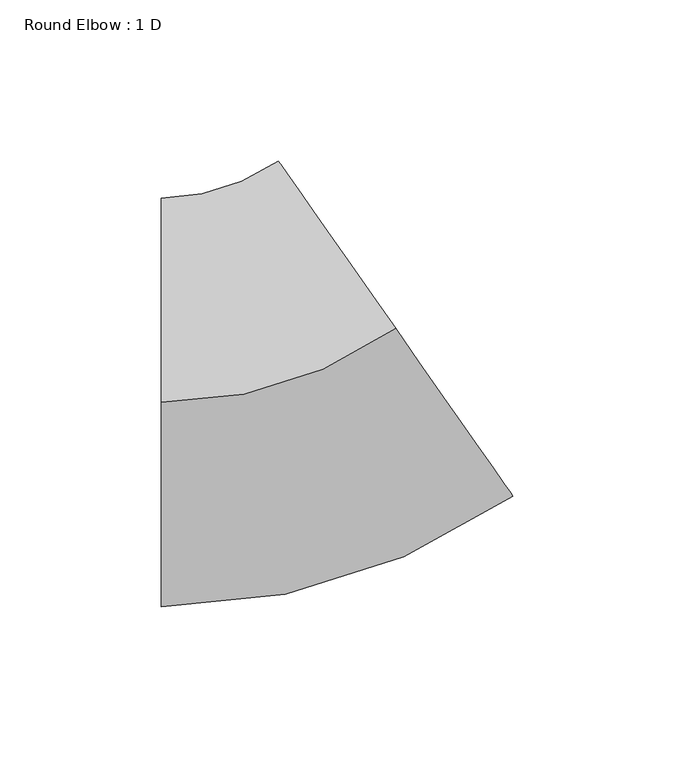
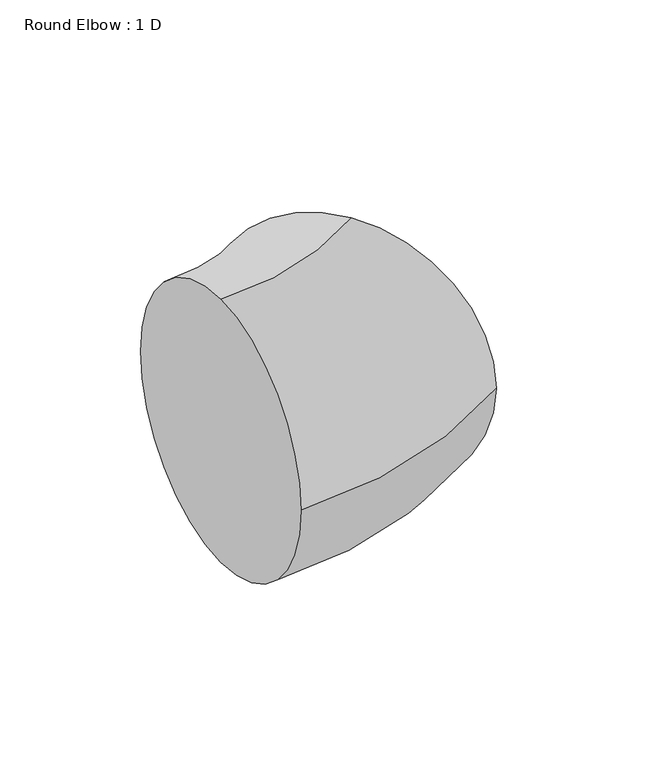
"""IFC4 building model written with IfcOpenShell, lengths in millimetres: duct fitting geometry, Round Elbow : 1 D."""

import ifcopenshell
import ifcopenshell.guid

model = None  # the IFC model being written
_history = None  # IfcOwnerHistory: only IFC2X3 demands one
_inside = {}  # id of a spatial element -> (the spatial element, [elements in it])
_under = {}  # id of a project, library or spatial element -> (it, [spatial elements below it])
_declared = {}  # id of a project -> (the project, [libraries it declares])
_typed = {}  # id of a type object -> (the type object, [elements of that type])
_made_of = {}  # id of a material, layer set ... -> (it, [elements and type objects made of it])


def new_model(schema):
    """Start an empty IFC model of exactly this schema.

    Asked for "IFC4X3", IfcOpenShell would pick the latest addendum, in which some entities
    have other attributes; the version numbers below select the first issue.
    IFC2X3 requires an IfcOwnerHistory on every rooted entity: one is made here for all.
    """
    global model, _history
    if schema == "IFC4X3":
        model = ifcopenshell.file(schema_version=(4, 3, 0, 0))
    else:
        model = ifcopenshell.file(schema=schema)
    _inside.clear()
    _under.clear()
    _declared.clear()
    _typed.clear()
    _made_of.clear()
    _history = None
    if model.schema == "IFC2X3":
        org = make("IfcOrganization", Name="unknown")
        user = make(
            "IfcPersonAndOrganization",
            ThePerson=make("IfcPerson", FamilyName="unknown"),
            TheOrganization=org,
        )
        app = make(
            "IfcApplication",
            ApplicationDeveloper=org,
            Version="unknown",
            ApplicationFullName="unknown",
            ApplicationIdentifier="unknown",
        )
        _history = make(
            "IfcOwnerHistory",
            OwningUser=user,
            OwningApplication=app,
            ChangeAction="ADDED",
            CreationDate=0,
        )
    return model


def make(cls, **values):
    """One entity of the class cls with the attributes given. An attribute that is None is left unset."""
    return model.create_entity(
        cls, **{name: value for name, value in values.items() if value is not None}
    )


def rooted(cls, **values):
    """An entity with a GlobalId (a new one), such as an element, a storey or a relation."""
    return make(cls, GlobalId=ifcopenshell.guid.new(), OwnerHistory=_history, **values)


def si_unit(unit_type, name, prefix=None):
    """IfcSIUnit, for example si_unit("LENGTHUNIT", "METRE", prefix="MILLI")."""
    return make("IfcSIUnit", UnitType=unit_type, Prefix=prefix, Name=name)


def assignment(units):
    """IfcUnitAssignment: the units of a project."""
    return None if units is None else make("IfcUnitAssignment", Units=units)


def point(xyz):
    """IfcCartesianPoint."""
    return None if xyz is None else make("IfcCartesianPoint", Coordinates=xyz)


def direction(xyz):
    """IfcDirection."""
    return None if xyz is None else make("IfcDirection", DirectionRatios=xyz)


def frame(location, z_axis=None, x_axis=None):
    """IfcAxis2Placement3D, a coordinate frame: its origin and axes. An axis left out is left unset."""
    return make(
        "IfcAxis2Placement3D",
        Location=point(location),
        Axis=direction(z_axis),
        RefDirection=direction(x_axis),
    )


def origin():
    """The frame at (0, 0, 0) with its axes left unset."""
    return frame((0.0, 0.0, 0.0))


def place(relative_to, where):
    """IfcLocalPlacement: puts the frame where relative to a parent placement (None: the world)."""
    return make(
        "IfcLocalPlacement", PlacementRelTo=relative_to, RelativePlacement=where
    )


def context(
    kind, dimensions, precision=None, world=None, true_north=None, identifier=None
):
    """IfcGeometricRepresentationContext, for example the 3D "Model" context."""
    return make(
        "IfcGeometricRepresentationContext",
        ContextIdentifier=identifier,
        ContextType=kind,
        CoordinateSpaceDimension=dimensions,
        Precision=precision,
        WorldCoordinateSystem=world,
        TrueNorth=true_north,
    )


def project(units=None, contexts=None):
    """IfcProject with its units and contexts."""
    return rooted(
        "IfcProject",
        Name="project",
        RepresentationContexts=contexts,
        UnitsInContext=assignment(units),
    )


def spatial(cls, under=None, at=None, **own):
    """A site, building, storey or space (cls), placed at a placement, below another one or the project."""
    s = rooted(cls, ObjectPlacement=at, **own)
    if under is not None:
        _under.setdefault(under.id(), (under, []))[1].append(s)
    return s


def circle_curve(where, radius):
    """IfcCircle in the frame where."""
    return make("IfcCircle", Position=where, Radius=radius)


def ellipse_curve(where, semi_axis1, semi_axis2):
    """IfcEllipse in the frame where."""
    return make(
        "IfcEllipse", Position=where, SemiAxis1=semi_axis1, SemiAxis2=semi_axis2
    )


def trimmed(basis, trim1, trim2, sense, master):
    """IfcTrimmedCurve: the piece of a basis curve between two trims."""
    return make(
        "IfcTrimmedCurve",
        BasisCurve=basis,
        Trim1=trim1,
        Trim2=trim2,
        SenseAgreement=sense,
        MasterRepresentation=master,
    )


def shape(context_of_items, identifier, shape_type, items):
    """IfcShapeRepresentation: the items that make up one representation, for example the "Body"."""
    return make(
        "IfcShapeRepresentation",
        ContextOfItems=context_of_items,
        RepresentationIdentifier=identifier,
        RepresentationType=shape_type,
        Items=items,
    )


def source(mapping_origin, context_of_items, identifier, shape_type, items):
    """IfcRepresentationMap: a shape defined once, which mapped items show again and again."""
    return make(
        "IfcRepresentationMap",
        MappingOrigin=mapping_origin,
        MappedRepresentation=shape(context_of_items, identifier, shape_type, items),
    )


def transform(
    local_origin,
    x_axis=None,
    y_axis=None,
    z_axis=None,
    scale=None,
    scale2=None,
    scale3=None,
    uniform=True,
):
    """IfcCartesianTransformationOperator3D, or its non-uniform kind. x_axis, y_axis, z_axis: its Axis1, 2, 3."""
    if uniform:
        return make(
            "IfcCartesianTransformationOperator3D",
            Axis1=direction(x_axis),
            Axis2=direction(y_axis),
            LocalOrigin=point(local_origin),
            Scale=scale,
            Axis3=direction(z_axis),
        )
    return make(
        "IfcCartesianTransformationOperator3DnonUniform",
        Axis1=direction(x_axis),
        Axis2=direction(y_axis),
        LocalOrigin=point(local_origin),
        Scale=scale,
        Axis3=direction(z_axis),
        Scale2=scale2,
        Scale3=scale3,
    )


def mapped(mapping_source, mapping_target):
    """IfcMappedItem: shows the shape of a source again, moved by a transform."""
    return make(
        "IfcMappedItem", MappingSource=mapping_source, MappingTarget=mapping_target
    )


def made_of(thing, what):
    """Note that an element or type object is made of a material, layer set ...; save() writes the relation."""
    if what is not None:
        _made_of.setdefault(what.id(), (what, []))[1].append(thing)
    return thing


def element(
    cls,
    number,
    at=None,
    inside=None,
    cuts=None,
    type_object=None,
    material=None,
    context=None,
    identifier="Body",
    shape_type=None,
    held_by="IfcProductDefinitionShape",
    body=None,
    shapes=None,
    **own,
):
    """One element of the class cls, such as IfcWall. Its Tag is "e" and its number.

    at: its placement. inside: the storey or other place that contains it. cuts: it is an
    opening in that element (IfcRelVoidsElement). A single representation is given by context,
    identifier, shape_type and body (its items); several are given by shapes. held_by: the class
    of the entity that holds the representations. save() writes the other relations.
    """
    e = rooted(cls, Tag="e%d" % number, ObjectPlacement=at, **own)
    if body is not None:
        shapes = [shape(context, identifier, shape_type, body)]
    if shapes is not None:
        e.Representation = make(held_by, Representations=shapes)
    if inside is not None:
        _inside.setdefault(inside.id(), (inside, []))[1].append(e)
    if cuts is not None:
        rooted(
            "IfcRelVoidsElement", RelatingBuildingElement=cuts, RelatedOpeningElement=e
        )
    if type_object is not None:
        _typed.setdefault(type_object.id(), (type_object, []))[1].append(e)
    return made_of(e, material)


def aggregate(whole, parts):
    """IfcRelAggregates: a whole, such as a stair, and the parts it consists of."""
    return rooted("IfcRelAggregates", RelatingObject=whole, RelatedObjects=parts)


def save(model, path):
    """Write the relations noted so far, then the file.

    IfcRelAggregates (storeys below a building ...), IfcRelContainedInSpatialStructure (elements
    in a storey), IfcRelDefinesByType, IfcRelAssociatesMaterial and IfcRelDeclares: one each for
    every whole, place, type object, material and project.
    """
    for whole, parts in _under.values():
        aggregate(whole, parts)
    for where, things in _inside.values():
        rooted(
            "IfcRelContainedInSpatialStructure",
            RelatedElements=things,
            RelatingStructure=where,
        )
    for kind, things in _typed.values():
        rooted("IfcRelDefinesByType", RelatedObjects=things, RelatingType=kind)
    for what, things in _made_of.values():
        rooted("IfcRelAssociatesMaterial", RelatedObjects=things, RelatingMaterial=what)
    for by, libraries in _declared.values():
        rooted("IfcRelDeclares", RelatingContext=by, RelatedDefinitions=libraries)
    model.write(path)


def plane_surface(at):
    """IfcPlane: the flat surface through the origin of the frame at, square to its z axis."""
    return make("IfcPlane", Position=at)


def revolved_surface(curve, axis_point, axis_direction):
    """IfcSurfaceOfRevolution: the curve turned about the line through axis_point along axis_direction."""
    return make(
        "IfcSurfaceOfRevolution",
        SweptCurve=make("IfcArbitraryOpenProfileDef", ProfileType="CURVE", Curve=curve),
        AxisPosition=make("IfcAxis1Placement", Location=point(axis_point), Axis=direction(axis_direction)),
    )


def advanced_brep(points, edges, surfaces, faces):
    """IfcAdvancedBrep: a solid bounded by faces that lie on surfaces and meet in shared edges.

    An edge is (start, end): straight between two places in points (the first is 0);
    or (start, end, curve); or (start, end, curve, False) where it runs against its curve.
    A face is (place in surfaces, loops), or (place, loops, False) where it looks against
    its surface's normal. A loop lists edges by number (the first is 1), with a minus sign
    where the edge is run from its end to its start. The first loop is the outer one.
    """
    corners = [point(p) for p in points]
    vertices = [make("IfcVertexPoint", VertexGeometry=c) for c in corners]
    made = []
    for start, end, *more in edges:
        made.append(
            make(
                "IfcEdgeCurve",
                EdgeStart=vertices[start],
                EdgeEnd=vertices[end],
                EdgeGeometry=more[0] if more else make("IfcPolyline", Points=[corners[start], corners[end]]),
                SameSense=more[1] if len(more) > 1 else True,
            )
        )
    hull = []
    for where, loops, *sense in faces:
        bounds = []
        for j, loop in enumerate(loops):
            ring = [make("IfcOrientedEdge", EdgeElement=made[abs(k) - 1], Orientation=k > 0) for k in loop]
            bounds.append(
                make(
                    "IfcFaceOuterBound" if j == 0 else "IfcFaceBound",
                    Bound=make("IfcEdgeLoop", EdgeList=ring),
                    Orientation=True,
                )
            )
        hull.append(make("IfcAdvancedFace", Bounds=bounds, FaceSurface=surfaces[where], SameSense=sense[0] if sense else True))
    return make("IfcAdvancedBrep", Outer=make("IfcClosedShell", CfsFaces=hull))


def round_elbow_1_d_538d8ec8(model_context):
    return source(origin(), model_context, "Body", "AdvancedBrep", [
        advanced_brep(
        [(-40.0429462, 0.0, 63.5), (-40.0429462, 63.5, 0.0), (-40.0429462, 0.0, -63.5), (-40.0429462, -63.5, 0.0), (32.8012612, 22.9676904, 63.5), (69.2233649, -29.0484644, 0.0), (32.8012612, 22.9676904, -63.5), (-3.6208425, 74.9838452, 0.0)],
        [
            (0, 1, circle_curve(frame((-40.0429462, 0.0, 0.0), z_axis=(-1.0, 0.0, 0.0), x_axis=(0.0, 1.0, 0.0)), 63.5)),
            (1, 2, circle_curve(frame((-40.0429462, 0.0, 0.0), z_axis=(-1.0, 0.0, 0.0), x_axis=(0.0, 1.0, 0.0)), 63.5)),
            (2, 3, circle_curve(frame((-40.0429462, 0.0, 0.0), z_axis=(-1.0, 0.0, 0.0), x_axis=(0.0, 1.0, 0.0)), 63.5)),
            (3, 0, circle_curve(frame((-40.0429462, 0.0, 0.0), z_axis=(-1.0, 0.0, 0.0), x_axis=(0.0, 1.0, 0.0)), 63.5)),
            (4, 5, circle_curve(frame((32.8012612, 22.9676904, 0.0), z_axis=(0.819152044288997, 0.5735764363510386, 0.0), x_axis=(-0.5735764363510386, 0.819152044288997, 0.0)), 63.5)),
            (5, 6, circle_curve(frame((32.8012612, 22.9676904, 0.0), z_axis=(0.819152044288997, 0.5735764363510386, 0.0), x_axis=(-0.5735764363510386, 0.819152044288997, 0.0)), 63.5)),
            (6, 7, circle_curve(frame((32.8012612, 22.9676904, 0.0), z_axis=(0.819152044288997, 0.5735764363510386, 0.0), x_axis=(-0.5735764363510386, 0.819152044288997, 0.0)), 63.5)),
            (7, 4, circle_curve(frame((32.8012612, 22.9676904, 0.0), z_axis=(0.819152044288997, 0.5735764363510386, 0.0), x_axis=(-0.5735764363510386, 0.819152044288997, 0.0)), 63.5)),
            (7, 1, circle_curve(frame((-40.0429462, 127.0, 0.0), z_axis=(0.0, 0.0, -1.0), x_axis=(0.0, -1.0, 0.0)), 63.5)),
            (0, 4, circle_curve(frame((-40.0429462, 127.0, 63.5), z_axis=(0.0, 0.0, 1.0), x_axis=(0.0, -1.0, 0.0)), 127.0)),
            (6, 2, circle_curve(frame((-40.0429462, 127.0, -63.5), z_axis=(0.0, 0.0, -1.0), x_axis=(0.0, -1.0, 0.0)), 127.0)),
            (5, 3, circle_curve(frame((-40.0429462, 127.0, 0.0), z_axis=(0.0, 0.0, -1.0), x_axis=(0.0, -1.0, 0.0)), 190.5)),
        ],
        [
            plane_surface(frame((-40.0429462, 0.0, 0.0), z_axis=(-1.0, 0.0, 0.0), x_axis=(0.0, 0.0, 1.0))),
            plane_surface(frame((32.8012612, 22.9676904, 0.0), z_axis=(0.819152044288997, 0.5735764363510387, 0.0), x_axis=(0.0, 0.0, 1.0))),
            revolved_surface(trimmed(ellipse_curve(frame((-40.0429462, 0.0, 0.0), z_axis=(-1.0, 0.0, 0.0), x_axis=(0.0, 1.0, 0.0)), 63.5, 63.5), [point((-40.0429462, 0.0, 63.5))], [point((-40.0429462, 63.5, 0.0))], True, "CARTESIAN"), (-40.0429462, 127.0, 0.0), (0.0, 0.0, 1.0)),
            revolved_surface(trimmed(ellipse_curve(frame((-40.0429462, 0.0, 0.0), z_axis=(-1.0, 0.0, 0.0), x_axis=(0.0, 1.0, 0.0)), 63.5, 63.5), [point((-40.0429462, 63.5, 0.0))], [point((-40.0429462, 0.0, -63.5))], True, "CARTESIAN"), (-40.0429462, 127.0, 0.0), (0.0, 0.0, 1.0)),
            revolved_surface(trimmed(ellipse_curve(frame((-40.0429462, 0.0, 0.0), z_axis=(-1.0, 0.0, 0.0), x_axis=(0.0, 1.0, 0.0)), 63.5, 63.5), [point((-40.0429462, 0.0, -63.5))], [point((-40.0429462, -63.5, 0.0))], True, "CARTESIAN"), (-40.0429462, 127.0, 0.0), (0.0, 0.0, 1.0)),
            revolved_surface(trimmed(ellipse_curve(frame((-40.0429462, 0.0, 0.0), z_axis=(-1.0, 0.0, 0.0), x_axis=(0.0, 1.0, 0.0)), 63.5, 63.5), [point((-40.0429462, -63.5, 0.0))], [point((-40.0429462, 0.0, 63.5))], True, "CARTESIAN"), (-40.0429462, 127.0, 0.0), (0.0, 0.0, 1.0)),
        ],
        [
            (0, [[1, 2, 3, 4]]),
            (1, [[5, 6, 7, 8]]),
            (2, [[9, -1, 10, -8]]),
            (3, [[11, -2, -9, -7]]),
            (4, [[12, -3, -11, -6]]),
            (5, [[-10, -4, -12, -5]]),
        ],
    ),
    ])


if __name__ == "__main__":
    model = new_model("IFC4")
    model_context = context("Model", 3, world=origin())
    ifc_project = project(units=[si_unit("LENGTHUNIT", "METRE", prefix="MILLI")], contexts=[model_context])
    site = spatial("IfcSite", under=ifc_project)
    building = spatial("IfcBuilding", under=site)
    placement = place(None, origin())
    round_elbow_1_d_shape = round_elbow_1_d_538d8ec8(model_context)
    element("IfcDuctFitting", 1, ObjectType="Round Elbow : 1 D", at=placement, inside=building, context=model_context, shape_type="MappedRepresentation", body=[
        mapped(round_elbow_1_d_shape, transform((0.0, 0.0, 0.0), x_axis=(1.0, 0.0, 0.0), y_axis=(0.0, 1.0, 0.0), z_axis=(0.0, 0.0, 1.0))),
    ])
    save(model, "model.ifc")
